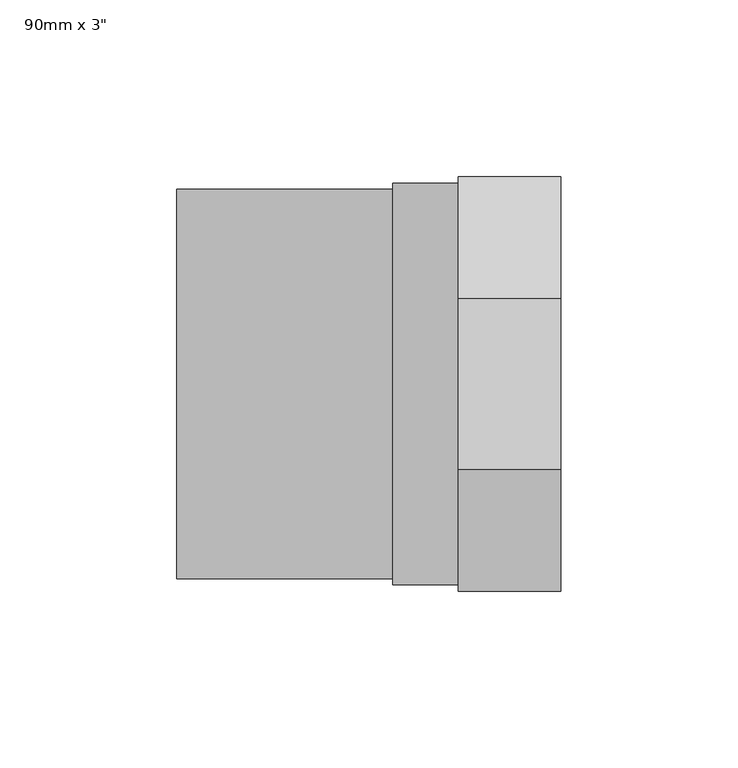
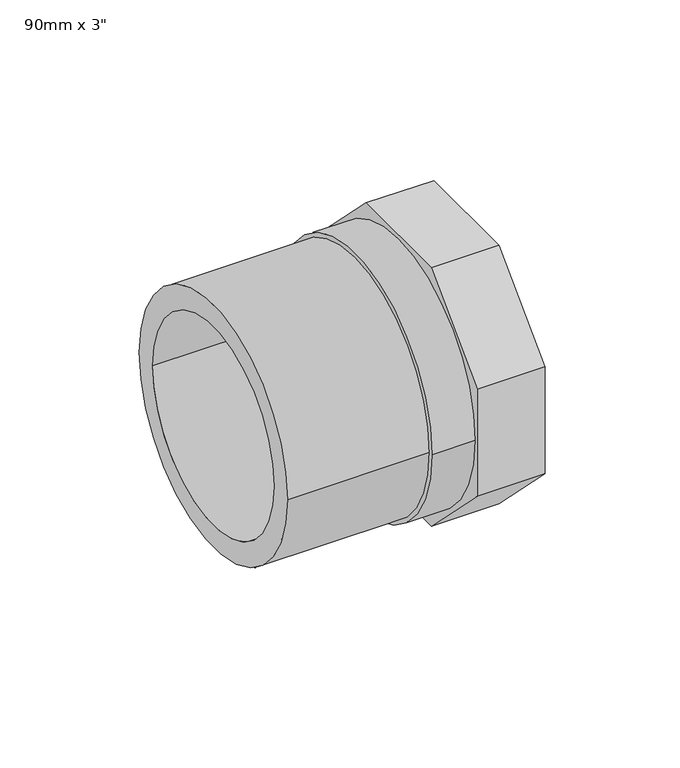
"""IFC4 building model written with IfcOpenShell, lengths in millimetres: pipe fitting geometry."""

from ifc_helpers import new_model, si_unit, point, frame, origin, origin_2d, place, context, project, spatial, polyline, circle_curve, trimmed, segment, composite_curve, outline, extrude, source, transform, mapped, element, save
from ifc_brep_helpers import plane_surface, revolved_surface, advanced_brep


def pipe_fitting_61c3294d(model_context):
    return source(origin(), model_context, "Body", "SolidModel", [
        extrude(outline(composite_curve([segment(trimmed(circle_curve(origin_2d(), 56.75), [point((-56.75, 0.0))], [point((56.75, 0.0))], False, "CARTESIAN"), True, "CONTINUOUS"), segment(trimmed(circle_curve(origin_2d(), 56.75), [point((56.75, 0.0))], [point((-56.75, 0.0))], False, "CARTESIAN"), True, "CONTINUOUS")], self_intersect=False), holes=[composite_curve([segment(trimmed(circle_curve(origin_2d(), 39.5), [point((-39.5, 0.0))], [point((39.5, 0.0))], True, "CARTESIAN"), True, "CONTINUOUS"), segment(trimmed(circle_curve(origin_2d(), 39.5), [point((39.5, 0.0))], [point((-39.5, 0.0))], True, "CARTESIAN"), True, "CONTINUOUS")], self_intersect=False)]), frame((30.5, 0.0, 0.0), z_axis=(1.0, 0.0, 0.0), x_axis=(0.0, 1.0, 0.0)), (0.0, 0.0, 1.0), 18.5),
        advanced_brep(
        [(49.0, 24.2314934, 58.5), (49.0, 58.5, 24.2314934), (49.0, 58.5, -24.2314934), (49.0, 24.2314934, -58.5), (49.0, -24.2314934, -58.5), (49.0, -58.5, -24.2314934), (49.0, -58.5, 24.2314934), (49.0, -24.2314934, 58.5), (49.0, -39.5, 0.0), (49.0, 39.5, 0.0), (78.0, 24.2314934, 58.5), (78.0, -24.2314934, 58.5), (78.0, -58.5, 24.2314934), (78.0, -58.5, -24.2314934), (78.0, -24.2314934, -58.5), (78.0, 24.2314934, -58.5), (78.0, 58.5, -24.2314934), (78.0, 58.5, 24.2314934), (78.0, 44.0, 0.0), (78.0, -44.0, 0.0), (77.8, 44.0, 0.0), (77.8, -44.0, 0.0), (77.8, 39.5, 0.0), (77.8, -39.5, 0.0)],
        [
            (0, 1),
            (1, 2),
            (2, 3),
            (3, 4),
            (4, 5),
            (5, 6),
            (6, 7),
            (7, 0),
            (8, 9, circle_curve(frame((49.0, 0.0, 0.0), z_axis=(1.0, 0.0, 0.0), x_axis=(0.0, -1.0, 0.0)), 39.5)),
            (9, 8, circle_curve(frame((49.0, 0.0, 0.0), z_axis=(1.0, 0.0, 0.0), x_axis=(0.0, -1.0, 0.0)), 39.5)),
            (10, 11),
            (11, 12),
            (12, 13),
            (13, 14),
            (14, 15),
            (15, 16),
            (16, 17),
            (17, 10),
            (18, 19, circle_curve(frame((78.0, 0.0, 0.0), z_axis=(-1.0, 0.0, 0.0), x_axis=(0.0, -1.0, 0.0)), 44.0)),
            (19, 18, circle_curve(frame((78.0, 0.0, 0.0), z_axis=(-1.0, 0.0, 0.0), x_axis=(0.0, -1.0, 0.0)), 44.0)),
            (0, 10),
            (17, 1),
            (16, 2),
            (15, 3),
            (14, 4),
            (13, 5),
            (12, 6),
            (11, 7),
            (20, 21, circle_curve(frame((77.8, 0.0, 0.0), z_axis=(1.0, 0.0, 0.0), x_axis=(0.0, -1.0, 0.0)), 44.0)),
            (21, 20, circle_curve(frame((77.8, 0.0, 0.0), z_axis=(1.0, 0.0, 0.0), x_axis=(0.0, -1.0, 0.0)), 44.0)),
            (22, 23, circle_curve(frame((77.8, 0.0, 0.0), z_axis=(-1.0, 0.0, 0.0), x_axis=(0.0, -1.0, 0.0)), 39.5)),
            (23, 22, circle_curve(frame((77.8, 0.0, 0.0), z_axis=(-1.0, 0.0, 0.0), x_axis=(0.0, -1.0, 0.0)), 39.5)),
            (21, 19),
            (18, 20),
            (22, 9),
            (8, 23),
        ],
        [
            plane_surface(frame((49.0, 0.0, 0.0), z_axis=(-1.0, 0.0, 0.0), x_axis=(0.0, 0.0, 1.0))),
            plane_surface(frame((78.0, 0.0, 0.0), z_axis=(1.0, 0.0, 0.0), x_axis=(0.0, 0.0, 1.0))),
            plane_surface(frame((49.0, 24.2314934, 58.5), z_axis=(0.0, 0.7071067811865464, 0.7071067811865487), x_axis=(1.0, 0.0, 0.0))),
            plane_surface(frame((49.0, 58.5, 24.2314934), z_axis=(0.0, 1.0, 0.0), x_axis=(1.0, 0.0, 0.0))),
            plane_surface(frame((49.0, 58.5, -24.2314934), z_axis=(0.0, 0.7071067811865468, -0.7071067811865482), x_axis=(1.0, 0.0, 0.0))),
            plane_surface(frame((49.0, 24.2314934, -58.5), z_axis=(0.0, 0.0, -1.0), x_axis=(1.0, 0.0, 0.0))),
            plane_surface(frame((49.0, -24.2314934, -58.5), z_axis=(0.0, -0.7071067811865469, -0.7071067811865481), x_axis=(1.0, 0.0, 0.0))),
            plane_surface(frame((49.0, -58.5, -24.2314934), z_axis=(0.0, -1.0, 0.0), x_axis=(1.0, 0.0, 0.0))),
            plane_surface(frame((49.0, -58.5, 24.2314934), z_axis=(0.0, -0.7071067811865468, 0.7071067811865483), x_axis=(1.0, 0.0, 0.0))),
            plane_surface(frame((49.0, -24.2314934, 58.5), z_axis=(0.0, 0.0, 1.0), x_axis=(1.0, 0.0, 0.0))),
            plane_surface(frame((77.8, -44.0, 0.0), z_axis=(1.0, 0.0, 0.0), x_axis=(0.0, 0.0, 1.0))),
            revolved_surface(polyline([(77.8, -44.0, 0.0), (78.0, -44.0, 0.0)]), (78.0, 0.0, 0.0), (-1.0, 0.0, 0.0)),
            revolved_surface(polyline([(49.0, -39.5, 0.0), (77.8, -39.5, 0.0)]), (78.0, 0.0, 0.0), (-1.0, 0.0, 0.0)),
        ],
        [
            (0, [[1, 2, 3, 4, 5, 6, 7, 8], [9, 10]]),
            (1, [[11, 12, 13, 14, 15, 16, 17, 18], [19, 20]]),
            (2, [[-1, 21, -18, 22]]),
            (3, [[-2, -22, -17, 23]]),
            (4, [[-3, -23, -16, 24]]),
            (5, [[-4, -24, -15, 25]]),
            (6, [[-5, -25, -14, 26]]),
            (7, [[-6, -26, -13, 27]]),
            (8, [[-7, -27, -12, 28]]),
            (9, [[-8, -28, -11, -21]]),
            (10, [[29, 30], [31, 32]]),
            (11, [[-30, 33, -19, 34]]),
            (11, [[-29, -34, -20, -33]]),
            (12, [[35, -9, 36, -31]]),
            (12, [[-35, -32, -36, -10]]),
        ],
    ),
        extrude(outline(composite_curve([segment(trimmed(circle_curve(origin_2d(), 55.0), [point((-55.0, 0.0))], [point((55.0, 0.0))], False, "CARTESIAN"), True, "CONTINUOUS"), segment(trimmed(circle_curve(origin_2d(), 55.0), [point((55.0, 0.0))], [point((-55.0, 0.0))], False, "CARTESIAN"), True, "CONTINUOUS")], self_intersect=False), holes=[composite_curve([segment(trimmed(circle_curve(origin_2d(), 45.0), [point((-45.0, 0.0))], [point((45.0, 0.0))], True, "CARTESIAN"), True, "CONTINUOUS"), segment(trimmed(circle_curve(origin_2d(), 45.0), [point((45.0, 0.0))], [point((-45.0, 0.0))], True, "CARTESIAN"), True, "CONTINUOUS")], self_intersect=False)]), frame((-30.5, 0.0, 0.0), z_axis=(1.0, 0.0, 0.0), x_axis=(0.0, 1.0, 0.0)), (0.0, 0.0, 1.0), 61.0),
    ])


if __name__ == "__main__":
    model = new_model("IFC4")
    model_context = context("Model", 3, world=origin())
    ifc_project = project(units=[si_unit("LENGTHUNIT", "METRE", prefix="MILLI")], contexts=[model_context])
    site = spatial("IfcSite", under=ifc_project)
    building = spatial("IfcBuilding", under=site)
    placement = place(None, origin())
    pipe_fitting_shape = pipe_fitting_61c3294d(model_context)
    element("IfcPipeFitting", 1, ObjectType="PipeFitting_HTA_CPVC_ThreadedAdaptors : 90mm x 3\"", at=placement, inside=building, context=model_context, shape_type="MappedRepresentation", body=[
        mapped(pipe_fitting_shape, transform((0.0, 0.0, 0.0), x_axis=(1.0, 0.0, 0.0), y_axis=(0.0, 1.0, 0.0), z_axis=(0.0, 0.0, 1.0))),
    ])
    save(model, "model.ifc")
